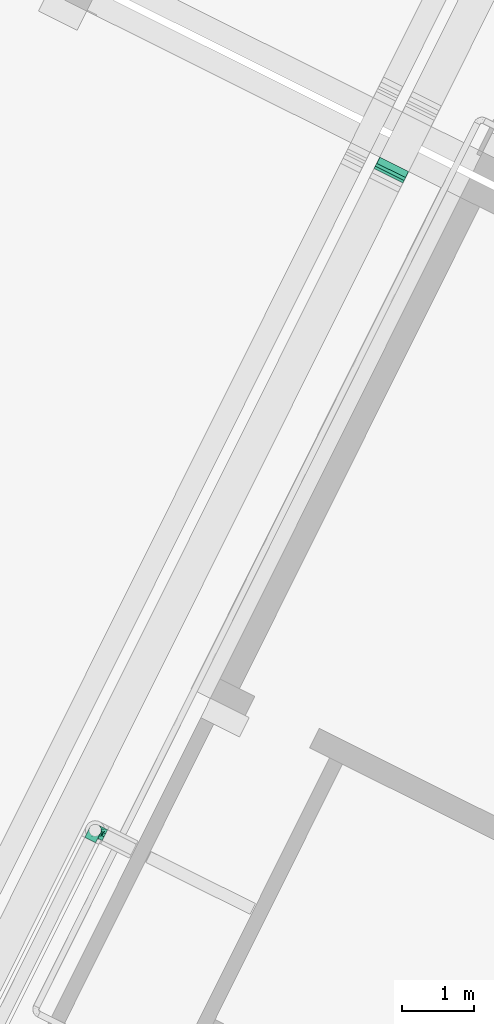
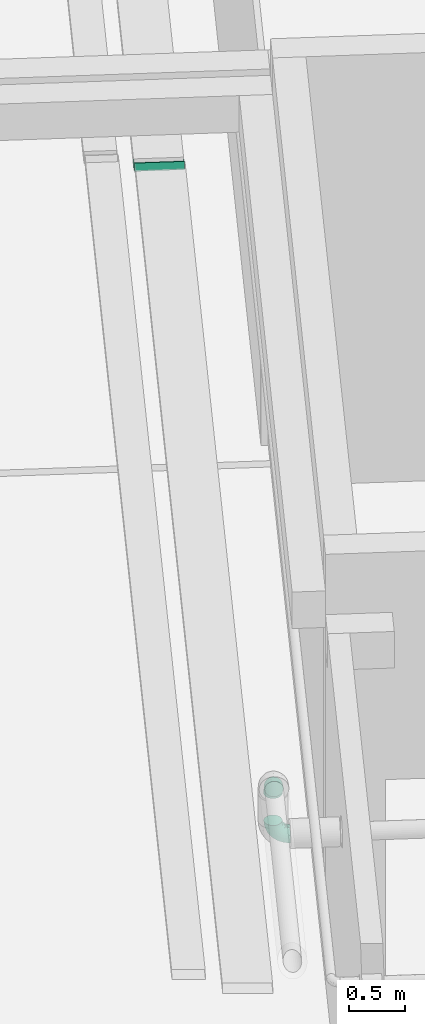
# One storey, part 79 of 91: 3 flow fittings, 1 flow segment.
"""IFC2X3 building model written with IfcOpenShell, lengths in metres."""

from ifc_helpers import new_model, entity, si_unit, converted_unit, derived_unit, direction, frame, frame_2d, origin, place, context, subcontext, project, spatial, rectangle, extrude, faceted_brep, source, transform, mapped, type_object, type_shapes, element, save


model = new_model("IFC2X3")

# Units and contexts
model_context = context("Model", 3, precision=1e-05, world=origin(), true_north=direction((0.894925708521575, 0.446215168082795)))
context_of_model = context(None, 3, precision=1e-05, world=origin(), true_north=direction((0.894925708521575, 0.446215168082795)))
body_context = subcontext(model_context, "Body", "Model", "MODEL_VIEW")
ifc_project = project(units=[si_unit("LENGTHUNIT", "METRE"), si_unit("AREAUNIT", "SQUARE_METRE"), si_unit("VOLUMEUNIT", "CUBIC_METRE"), converted_unit("PLANEANGLEUNIT", "DEGREE", entity("IfcRatioMeasure", 0.0174532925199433), si_unit("PLANEANGLEUNIT", "RADIAN"), dimensions=[0, 0, 0, 0, 0, 0, 0]), si_unit("MASSUNIT", "GRAM", prefix="KILO"), si_unit("TIMEUNIT", "SECOND"), si_unit("FREQUENCYUNIT", "HERTZ"), si_unit("THERMODYNAMICTEMPERATUREUNIT", "DEGREE_CELSIUS"), derived_unit("THERMALTRANSMITTANCEUNIT", [(si_unit("MASSUNIT", "GRAM", prefix="KILO"), 1), (si_unit("THERMODYNAMICTEMPERATUREUNIT", "KELVIN"), -1), (si_unit("TIMEUNIT", "SECOND"), -3)]), derived_unit("VOLUMETRICFLOWRATEUNIT", [(si_unit("LENGTHUNIT", "METRE"), 3), (si_unit("TIMEUNIT", "SECOND"), -1)]), si_unit("ELECTRICCURRENTUNIT", "AMPERE"), si_unit("ELECTRICVOLTAGEUNIT", "VOLT"), si_unit("POWERUNIT", "WATT"), si_unit("FORCEUNIT", "NEWTON", prefix="KILO"), si_unit("ILLUMINANCEUNIT", "LUX"), si_unit("LUMINOUSFLUXUNIT", "LUMEN"), si_unit("LUMINOUSINTENSITYUNIT", "CANDELA"), si_unit("PRESSUREUNIT", "PASCAL")], contexts=[model_context, context_of_model])

# Site, building, storey
site_placement = place(None, frame((218.228324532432, 584.720189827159, 0.0), z_axis=(0.0, 0.0, 1.0), x_axis=(0.446215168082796, 0.894925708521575, 0.0)))
site = spatial("IfcSite", under=ifc_project, at=site_placement, Name="Default", CompositionType="ELEMENT")
building_placement = place(site_placement, origin())
building = spatial("IfcBuilding", under=site, at=building_placement, CompositionType="ELEMENT")
storey_placement = place(building_placement, origin())
storey = spatial("IfcBuildingStorey", under=building, at=storey_placement, Name="0 - Piano Terra", CompositionType="ELEMENT", Elevation=0.0)

# Flow fittings
pipe_fitting_type = type_object("IfcPipeFittingType", Name="Standard", PredefinedType="NOTDEFINED")
shared_shape_1 = source(origin(), body_context, "Body", "Brep", [
    faceted_brep([(-0.151999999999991, 0.0, -0.0841500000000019), (-0.151999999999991, -0.0217796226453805, -0.081282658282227), (-0.151999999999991, -0.0420750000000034, -0.0728760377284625), (-0.151999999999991, -0.0595030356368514, -0.05950303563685), (-0.151999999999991, -0.0728760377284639, -0.0420750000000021), (-0.151999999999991, -0.0812826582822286, -0.0217796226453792), (-0.151999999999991, -0.0841500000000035, 0.0), (-0.151999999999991, -0.0812826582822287, 0.021779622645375), (-0.151999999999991, -0.0728760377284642, 0.0420749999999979), (-0.151999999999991, -0.0595030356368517, 0.0595030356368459), (-0.151999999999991, -0.0420750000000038, 0.0728760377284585), (-0.151999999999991, -0.021779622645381, 0.0812826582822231), (-0.151999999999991, 0.0, 0.0841499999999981), (-0.151999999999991, 0.0217796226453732, 0.0812826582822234), (-0.151999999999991, 0.0420749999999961, 0.0728760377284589), (-0.151999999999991, 0.0595030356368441, 0.0595030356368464), (-0.151999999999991, 0.0728760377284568, 0.0420749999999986), (-0.151999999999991, 0.0812826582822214, 0.0217796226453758), (-0.151999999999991, 0.0841499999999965, 0.0), (-0.151999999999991, 0.0812826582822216, -0.021779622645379), (-0.151999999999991, 0.072876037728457, -0.0420750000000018), (-0.151999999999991, 0.0595030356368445, -0.0595030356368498), (-0.151999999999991, 0.0420749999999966, -0.0728760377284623), (-0.151999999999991, 0.0217796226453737, -0.0812826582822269), (-0.0217796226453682, 0.151999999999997, -0.0812826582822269), (-0.0420749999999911, 0.151999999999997, -0.0728760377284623), (-0.059503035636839, 0.151999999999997, -0.0595030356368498), (-0.0728760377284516, 0.151999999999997, -0.0420750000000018), (-0.0812826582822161, 0.151999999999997, -0.021779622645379), (-0.084149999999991, 0.151999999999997, 0.0), (-0.081282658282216, 0.151999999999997, 0.0217796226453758), (-0.0728760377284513, 0.151999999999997, 0.0420749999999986), (-0.0595030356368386, 0.151999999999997, 0.0595030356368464), (-0.0420749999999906, 0.151999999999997, 0.0728760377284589), (-0.0217796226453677, 0.151999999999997, 0.0812826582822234), (0.0, 0.151999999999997, 0.0841499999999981), (0.0217796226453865, 0.151999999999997, 0.0812826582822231), (0.0420750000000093, 0.151999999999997, 0.0728760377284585), (0.0595030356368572, 0.151999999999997, 0.0595030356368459), (0.0728760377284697, 0.151999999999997, 0.0420749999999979), (0.0812826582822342, 0.151999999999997, 0.021779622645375), (0.084150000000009, 0.151999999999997, 0.0), (0.081282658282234, 0.151999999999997, -0.0217796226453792), (0.0728760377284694, 0.151999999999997, -0.0420750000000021), (0.0595030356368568, 0.151999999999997, -0.05950303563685), (0.0420750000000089, 0.151999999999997, -0.0728760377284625), (0.021779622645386, 0.151999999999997, -0.081282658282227), (0.0, 0.151999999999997, -0.0841500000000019), (-0.112295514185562, -0.0662348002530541, 0.0469763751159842), (-0.0998944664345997, -0.0498948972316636, 0.0623523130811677), (-0.0994516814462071, -0.078229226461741, 0.0), (0.0326295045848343, 0.00476288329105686, 0.0), (0.0139051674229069, -0.0139051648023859, 0.0159460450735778), (-0.00476288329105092, -0.0326295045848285, 0.0), (-0.104326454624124, -0.0750333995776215, 0.0261468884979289), (-0.113416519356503, 0.0105478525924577, 0.0839778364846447), (-0.10345101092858, 0.0347244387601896, 0.080327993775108), (-0.131471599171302, 0.0309707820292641, 0.0789057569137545), (-0.0309203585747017, -0.0471487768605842, 0.0225668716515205), (-0.0495383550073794, -0.0607637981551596, 0.0), (-0.0683222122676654, -0.0568785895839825, 0.0418314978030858), (-0.0660333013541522, -0.0644471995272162, 0.0231811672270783), (-0.0835793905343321, 0.116982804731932, 0.0378856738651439), (-0.026569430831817, 0.0183089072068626, 0.0781043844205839), (-0.0165432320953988, 0.0456685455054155, 0.0816880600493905), (-0.0428661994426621, 0.0321386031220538, 0.0835414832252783), (0.0470025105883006, 0.0693062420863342, 0.055217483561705), (0.056878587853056, 0.0683222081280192, 0.0418314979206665), (0.0662347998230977, 0.112295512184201, 0.0469763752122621), (-0.0880808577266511, 0.123149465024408, 0.0194495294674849), (-0.115041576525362, -0.0119238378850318, 0.0826074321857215), (0.049894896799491, 0.0998944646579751, 0.062352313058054), (-0.111156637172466, -0.0327211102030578, 0.0754895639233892), (-0.0752436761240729, -0.0325343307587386, 0.0692137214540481), (-0.00888418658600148, -0.0109985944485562, 0.053550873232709), (-0.00897555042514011, 0.00897554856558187, 0.0674865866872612), (-0.0444608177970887, -0.0301022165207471, 0.0595210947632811), (-0.109349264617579, 0.0934713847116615, 0.0273546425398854), (-0.128739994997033, 0.0797549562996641, 0.0359106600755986), (-0.12603492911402, 0.0893147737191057, 0.0), (0.0471487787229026, 0.0309203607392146, 0.022566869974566), (0.0371028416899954, 0.0305253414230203, 0.0422794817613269), (-0.0347244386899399, 0.103451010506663, 0.080327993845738), (-0.0262367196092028, 0.07490520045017, 0.0840302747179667), (-0.0105478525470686, 0.113416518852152, 0.0839778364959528), (-0.119941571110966, 0.0519254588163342, 0.0698578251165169), (-0.0833454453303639, 0.0610025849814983, 0.0750769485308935), (-0.0993800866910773, 0.0670387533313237, 0.0661104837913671), (-0.0522736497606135, 0.118034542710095, 0.0700368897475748), (-0.118528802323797, 0.069574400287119, 0.055744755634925), (0.0607637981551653, 0.0495383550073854, 0.0), (0.0327211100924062, 0.111156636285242, 0.075489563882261), (-0.0767637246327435, 0.0258413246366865, 0.0839946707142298), (0.0119238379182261, 0.115041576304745, 0.0826074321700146), (-0.102216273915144, 0.0876981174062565, 0.0456699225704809), (0.0782292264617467, 0.0994516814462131, 0.0), (0.0750333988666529, 0.104326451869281, 0.0261468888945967), (0.0651289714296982, 0.0654047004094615, 0.0199129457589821), (-0.0566549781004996, 0.0566549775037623, 0.0823814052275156), (-0.0309707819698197, 0.13147159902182, 0.0789057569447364), (-0.0673555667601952, 0.101601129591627, 0.0649639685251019), (-0.0687747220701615, 0.121637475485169, 0.0553217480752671), (-0.0893147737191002, 0.126034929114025, 0.0), (-0.104022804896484, 0.104022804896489, 0.0), (-0.0580913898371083, 0.0854184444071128, 0.0756364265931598), (0.00431503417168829, 0.0425180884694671, 0.0746493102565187), (0.00308445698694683, 0.0734448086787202, 0.0812650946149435), (-0.0693062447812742, -0.0470025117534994, 0.0552174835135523), (-0.085628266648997, 0.086263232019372, 0.0604079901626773), (-0.0414671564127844, 0.0784252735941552, 0.0819258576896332), (-0.0734448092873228, -0.00308445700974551, 0.0812650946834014), (-0.0305253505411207, -0.037102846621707, 0.0422794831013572), (-0.0426179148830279, -0.0109766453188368, 0.0715577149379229), (0.0222104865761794, 0.075179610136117, 0.0748796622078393), (0.0365396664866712, 0.0751083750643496, 0.0664604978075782), (0.0166895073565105, 0.014403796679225, 0.0525934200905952), (-0.0796442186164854, 0.0464469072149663, 0.0806466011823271), (0.00908607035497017, -0.00908606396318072, 0.036524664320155), (0.0301022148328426, 0.0444608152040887, 0.0595210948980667), (-0.119427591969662, 0.0520158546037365, -0.0699061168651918), (-0.110232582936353, 0.0332348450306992, -0.0799986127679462), (0.067303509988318, 0.127444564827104, -0.0486323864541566), (-0.119776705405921, 0.00991992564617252, -0.0839129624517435), (-0.109349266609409, 0.0934713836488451, -0.0273546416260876), (-0.118520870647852, 0.080425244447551, -0.0418904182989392), (-0.0824889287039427, 0.0176322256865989, -0.0841469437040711), (-0.042237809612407, 0.0404874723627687, -0.0840312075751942), (-0.0715643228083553, 0.0462238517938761, -0.0819502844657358), (-0.0269520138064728, -0.034464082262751, -0.0426985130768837), (-0.0323682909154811, -0.0463076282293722, -0.0273014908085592), (-0.0576003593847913, -0.052357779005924, -0.0416714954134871), (-0.00991992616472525, 0.119776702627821, -0.083912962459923), (-0.0332348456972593, 0.110232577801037, -0.0799986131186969), (-0.0929808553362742, 0.0517253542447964, -0.0762272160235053), (0.00399581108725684, 0.0640144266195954, -0.079667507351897), (0.00840813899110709, 0.0328778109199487, -0.0692544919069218), (-0.0236511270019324, 0.0236511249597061, -0.0788049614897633), (0.0635649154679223, 0.0943451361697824, -0.0449449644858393), (0.0647121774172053, 0.0698052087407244, -0.0267768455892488), (0.0523577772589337, 0.0576003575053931, -0.0416714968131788), (-0.132110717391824, 0.0669080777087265, -0.0539090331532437), (-0.110166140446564, -0.0759227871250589, -0.0269132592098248), (-0.127444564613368, -0.067303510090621, -0.0486323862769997), (-0.0698052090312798, -0.0647121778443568, -0.0267768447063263), (0.00867466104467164, -0.00867466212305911, -0.037708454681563), (0.0160110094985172, 0.0156079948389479, -0.0541609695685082), (0.0347671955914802, 0.027256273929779, -0.0425577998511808), (-0.109085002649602, -0.0511074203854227, -0.0631726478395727), (0.0138015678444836, -0.0138015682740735, -0.0166872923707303), (-0.0734094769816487, 0.10741660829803, -0.0572817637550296), (-0.0938460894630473, 0.0941329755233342, -0.0467626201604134), (-0.0824977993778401, 0.119740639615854, -0.0374121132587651), (0.0203075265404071, 0.0628849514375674, -0.0729261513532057), (-0.127855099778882, -0.0335932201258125, -0.0764538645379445), (-0.111254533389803, -0.0115586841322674, -0.0825049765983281), (-0.054595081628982, -0.037464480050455, -0.0579290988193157), (-0.0943451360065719, -0.0635649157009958, -0.0449449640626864), (0.0463076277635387, 0.0323682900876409, -0.0273014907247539), (-0.0879480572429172, 0.123581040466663, -0.0192162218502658), (-0.0520158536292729, 0.119427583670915, -0.0699061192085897), (-0.0668704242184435, 0.132433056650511, -0.053865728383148), (0.0759227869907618, 0.11016614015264, -0.0269132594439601), (-0.094035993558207, 0.0671599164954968, -0.0682327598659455), (-0.0852711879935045, 0.0856897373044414, -0.0610386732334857), (-0.0723785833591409, 0.0723785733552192, -0.0743572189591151), (0.0511074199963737, 0.109085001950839, -0.0631726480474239), (0.0335932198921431, 0.127855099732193, -0.0764538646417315), (0.0115586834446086, 0.111254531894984, -0.0825049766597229), (0.0304569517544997, 0.0950501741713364, -0.0744944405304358), (-0.0587965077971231, -0.0231830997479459, -0.0701791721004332), (-0.0640144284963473, -0.0039958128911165, -0.0796675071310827), (-0.0253392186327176, -0.00591217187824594, -0.0673625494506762), (-0.0950501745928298, -0.0304569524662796, -0.0744944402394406), (0.0374644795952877, 0.0545950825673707, -0.0579290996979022), (-0.0176322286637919, 0.082488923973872, -0.0841469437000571), (-0.0469951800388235, 0.0749575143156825, -0.081286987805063), (-0.0651507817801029, 0.0957840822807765, -0.0687360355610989), (-0.0548517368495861, 0.0878796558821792, -0.0762491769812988), (-0.0117403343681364, -0.0138595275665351, -0.0531816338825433), (-0.106904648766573, 0.0736247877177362, -0.0573538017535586)], [[[0, 1, 2, 3, 4, 5, 6, 7, 8, 9, 10, 11, 12, 13, 14, 15, 16, 17, 18, 19, 20, 21, 22, 23]], [[24, 25, 26, 27, 28, 29, 30, 31, 32, 33, 34, 35, 36, 37, 38, 39, 40, 41, 42, 43, 44, 45, 46, 47]], [[9, 48, 49]], [[7, 6, 50]], [[51, 52, 53]], [[54, 8, 7]], [[50, 54, 7]], [[55, 56, 57]], [[8, 48, 9]], [[58, 59, 53]], [[60, 54, 61]], [[58, 60, 61]], [[9, 49, 10]], [[62, 31, 30]], [[63, 64, 65]], [[66, 67, 68]], [[30, 69, 62]], [[11, 70, 12]], [[71, 38, 37]], [[14, 13, 57]], [[10, 49, 72]], [[49, 73, 72]], [[74, 75, 76]], [[77, 17, 78]], [[17, 79, 18]], [[79, 17, 77]], [[80, 67, 81]], [[82, 83, 84]], [[85, 86, 87]], [[33, 32, 88]], [[85, 89, 15]], [[80, 51, 90]], [[71, 37, 91]], [[56, 55, 92]], [[93, 36, 35]], [[78, 94, 77]], [[95, 40, 96]], [[95, 96, 97]], [[83, 98, 65]], [[35, 34, 84]], [[34, 99, 84]], [[96, 40, 39]], [[71, 66, 68]], [[39, 38, 68]], [[94, 62, 77]], [[67, 80, 97]], [[100, 88, 101]], [[40, 95, 41]], [[15, 14, 85]], [[68, 96, 39]], [[56, 86, 85]], [[29, 102, 69]], [[15, 89, 16]], [[77, 69, 103]], [[78, 17, 16]], [[77, 103, 79]], [[61, 50, 59]], [[101, 88, 32]], [[69, 77, 62]], [[82, 88, 104]], [[91, 37, 36]], [[10, 72, 11]], [[64, 105, 106]], [[88, 82, 99]], [[99, 34, 33]], [[49, 48, 107]], [[48, 54, 60]], [[97, 80, 90]], [[32, 31, 101]], [[13, 12, 55]], [[108, 86, 104]], [[83, 109, 98]], [[93, 84, 106]], [[70, 55, 12]], [[110, 65, 92]], [[60, 58, 111]], [[76, 112, 73]], [[91, 113, 114]], [[75, 74, 115]], [[49, 107, 73]], [[70, 72, 110]], [[93, 91, 36]], [[106, 105, 113]], [[57, 85, 14]], [[116, 98, 86]], [[31, 62, 101]], [[108, 101, 62]], [[54, 48, 8]], [[48, 60, 107]], [[71, 68, 38]], [[96, 68, 67]], [[109, 104, 98]], [[89, 87, 108]], [[84, 93, 35]], [[93, 106, 113]], [[72, 70, 11]], [[55, 70, 110]], [[98, 116, 92]], [[106, 84, 83]], [[110, 112, 63]], [[83, 65, 64]], [[52, 58, 53]], [[111, 76, 107]], [[67, 66, 81]], [[52, 80, 117]], [[110, 92, 55]], [[98, 92, 65]], [[104, 88, 100]], [[98, 104, 86]], [[112, 76, 75]], [[110, 72, 73]], [[63, 112, 75]], [[110, 73, 112]], [[63, 75, 105]], [[110, 63, 65]], [[75, 118, 105]], [[113, 91, 93]], [[105, 118, 113]], [[118, 66, 114]], [[16, 89, 78]], [[94, 89, 108]], [[89, 94, 78]], [[62, 94, 108]], [[105, 64, 63]], [[83, 64, 106]], [[58, 117, 111]], [[74, 111, 117]], [[115, 81, 118]], [[117, 80, 81]], [[80, 52, 51]], [[58, 52, 117]], [[88, 99, 33]], [[84, 99, 82]], [[55, 57, 13]], [[85, 57, 56]], [[29, 69, 30]], [[69, 102, 103]], [[111, 107, 60]], [[73, 107, 76]], [[111, 74, 76]], [[117, 81, 115]], [[75, 115, 118]], [[117, 115, 74]], [[114, 66, 71]], [[81, 66, 118]], [[91, 114, 71]], [[118, 114, 113]], [[101, 108, 100]], [[104, 100, 108]], [[86, 56, 116]], [[92, 116, 56]], [[85, 87, 89]], [[86, 108, 87]], [[83, 82, 109]], [[104, 109, 82]], [[50, 61, 54]], [[59, 58, 61]], [[95, 97, 90]], [[67, 97, 96]], [[22, 119, 120]], [[121, 44, 43]], [[0, 23, 122]], [[19, 123, 124]], [[122, 120, 125]], [[126, 125, 127]], [[18, 79, 19]], [[128, 129, 130]], [[19, 79, 123]], [[24, 131, 132]], [[119, 133, 120]], [[134, 135, 136]], [[137, 138, 139]], [[20, 140, 21]], [[141, 4, 142]], [[143, 50, 141]], [[50, 6, 5]], [[144, 145, 146]], [[147, 3, 2]], [[129, 143, 130]], [[129, 144, 148]], [[149, 150, 151]], [[135, 134, 152]], [[141, 5, 4]], [[2, 153, 147]], [[154, 1, 0]], [[155, 156, 147]], [[2, 1, 153]], [[157, 90, 51]], [[123, 150, 124]], [[103, 123, 79]], [[156, 143, 141]], [[151, 158, 28]], [[25, 132, 159]], [[28, 158, 29]], [[27, 160, 151]], [[43, 42, 161]], [[27, 26, 160]], [[162, 163, 164]], [[45, 44, 165]], [[166, 167, 46]], [[165, 168, 166]], [[169, 170, 171]], [[131, 24, 47]], [[51, 148, 157]], [[26, 25, 159]], [[125, 120, 127]], [[46, 45, 166]], [[157, 139, 138]], [[53, 59, 129]], [[24, 132, 25]], [[3, 142, 4]], [[148, 51, 53]], [[154, 172, 153]], [[168, 165, 173]], [[28, 27, 151]], [[41, 95, 42]], [[172, 154, 170]], [[120, 133, 127]], [[161, 137, 121]], [[46, 167, 47]], [[167, 134, 174]], [[135, 171, 136]], [[120, 23, 22]], [[164, 175, 127]], [[102, 158, 103]], [[159, 176, 149]], [[22, 21, 119]], [[138, 137, 161]], [[149, 163, 150]], [[158, 102, 29]], [[121, 165, 44]], [[173, 165, 137]], [[134, 167, 168]], [[131, 167, 174]], [[152, 173, 135]], [[134, 136, 126]], [[42, 95, 161]], [[138, 95, 90]], [[155, 147, 172]], [[142, 147, 156]], [[122, 154, 0]], [[125, 126, 170]], [[125, 170, 154]], [[170, 136, 171]], [[130, 143, 156]], [[50, 5, 141]], [[140, 119, 21]], [[133, 162, 164]], [[175, 164, 177]], [[160, 159, 149]], [[173, 145, 135]], [[145, 178, 171]], [[171, 135, 145]], [[171, 155, 169]], [[120, 122, 23]], [[154, 122, 125]], [[167, 131, 47]], [[132, 131, 174]], [[95, 138, 161]], [[90, 157, 138]], [[129, 59, 143]], [[50, 143, 59]], [[177, 164, 176]], [[126, 136, 170]], [[175, 126, 127]], [[134, 126, 174]], [[132, 174, 175]], [[126, 175, 174]], [[173, 139, 146]], [[145, 144, 178]], [[128, 144, 129]], [[155, 171, 178]], [[146, 139, 157]], [[173, 137, 139]], [[144, 146, 157]], [[173, 146, 145]], [[156, 155, 130]], [[128, 155, 178]], [[155, 128, 130]], [[144, 128, 178]], [[124, 150, 179]], [[123, 151, 150]], [[140, 124, 179]], [[19, 124, 20]], [[151, 123, 158]], [[103, 158, 123]], [[162, 119, 179]], [[127, 133, 164]], [[119, 162, 133]], [[163, 162, 179]], [[150, 163, 179]], [[163, 149, 176]], [[129, 148, 53]], [[157, 148, 144]], [[124, 140, 20]], [[119, 140, 179]], [[159, 160, 26]], [[151, 160, 149]], [[165, 166, 45]], [[167, 166, 168]], [[161, 121, 43]], [[165, 121, 137]], [[154, 153, 1]], [[147, 153, 172]], [[147, 142, 3]], [[141, 142, 156]], [[159, 132, 177]], [[163, 176, 164]], [[159, 177, 176]], [[132, 175, 177]], [[134, 168, 152]], [[173, 152, 168]], [[155, 172, 169]], [[170, 169, 172]]]),
])
type_shapes(pipe_fitting_type, [shared_shape_1])
for number, where, z_axis, x_axis, name in (
    (1, (0.657301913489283, -4.38521649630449, 3.30000000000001), (1.0, 0.0, 0.0), (0.0, 1.0, 0.0), "M_Gomito - Saldato - Generico:Standard"),
    (2, (0.657301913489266, -4.38521649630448, 3.89999999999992), (0.0, 1.0, 0.0), (1.0, 0.0, 0.0), "M_Gomito - Saldato - Generico:Standard"),
):
    element("IfcFlowFitting", number, at=place(storey_placement, frame(where, z_axis=z_axis, x_axis=x_axis)), inside=storey, type_object=pipe_fitting_type, Name=name, ObjectType="Standard", context=body_context, shape_type="MappedRepresentation", body=[
        mapped(shared_shape_1, transform((0.0, 0.0, 0.0), scale=1.0)),
    ])

# Flow segment
cable_carrier_segment_type = type_object("IfcCableCarrierSegmentType", Name="Passerella con raccordi:Passerella canale", PredefinedType="NOTDEFINED")
flow_segment_placement = place(storey_placement, frame((10.616168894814, -4.20107899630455, 3.59822448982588)))
element("IfcFlowSegment", 3, at=flow_segment_placement, inside=storey, type_object=cable_carrier_segment_type, Name="Passerella con raccordi:Passerella canale", ObjectType="Passerella con raccordi:Passerella canale", context=body_context, shape_type="SweptSolid", body=[
    extrude(rectangle(XDim=0.0750000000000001, YDim=0.0527002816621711, at=frame_2d((0.0, 0.0), x_axis=(0.0, 1.0))), frame((0.0415698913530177, 0.0, 0.0456510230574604), z_axis=(0.0, 1.0, 0.0), x_axis=(-0.866025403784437, 0.0, 0.500000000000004)), (0.0, 0.0, 1.0), 0.449999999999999),
])

# Flow fitting
cable_carrier_fitting_type = type_object("IfcCableCarrierFittingType", Name="Standard", PredefinedType="NOTDEFINED")
shared_shape_2 = source(origin(), body_context, "Body", "Brep", [
    faceted_brep([(-0.0608988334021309, -0.0374999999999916, -0.225000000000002), (-0.0608988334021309, -0.0374999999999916, -0.222460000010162), (-0.0608988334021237, 0.0349600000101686, -0.222460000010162), (-0.0608988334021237, 0.0349600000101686, 0.222460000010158), (-0.0608988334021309, -0.0374999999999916, 0.222460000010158), (-0.0608988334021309, -0.0374999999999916, 0.224999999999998), (-0.0608988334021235, 0.0375000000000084, 0.224999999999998), (-0.0608988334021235, 0.0375000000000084, -0.225000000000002), (0.0702199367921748, -0.000173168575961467, -0.222460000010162), (0.0339899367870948, -0.0629253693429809, -0.222460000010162), (0.0339899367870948, -0.0629253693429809, -0.225000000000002), (0.0714899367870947, 0.00202653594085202, -0.225000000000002), (0.0714899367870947, 0.00202653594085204, 0.224999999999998), (0.0339899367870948, -0.0629253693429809, 0.224999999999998), (0.0339899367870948, -0.0629253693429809, 0.222460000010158), (0.0702199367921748, -0.00017316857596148, 0.222460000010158), (-0.0108988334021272, -0.0374999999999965, 0.224999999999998), (-0.0100770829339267, -0.0376081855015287, 0.224999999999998), (-0.00931133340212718, -0.0379253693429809, 0.224999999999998), (0.0281886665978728, 0.027026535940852, 0.224999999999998), (0.00933434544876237, 0.0348362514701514, 0.224999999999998), (-0.0108988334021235, 0.0375000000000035, 0.224999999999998), (-0.0108988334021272, 0.0375000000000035, 0.0706376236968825), (-0.0108988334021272, 0.0375000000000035, -0.0837247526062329), (-0.0108988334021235, 0.0375000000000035, -0.225000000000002), (0.00933434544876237, 0.0348362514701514, -0.225000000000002), (0.0281886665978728, 0.027026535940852, -0.225000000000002), (-0.00931133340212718, -0.0379253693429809, -0.225000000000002), (-0.0100770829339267, -0.0376081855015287, -0.225000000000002), (-0.0108988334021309, -0.0374999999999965, -0.225000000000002), (-0.0108988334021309, -0.0374999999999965, -0.222460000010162), (-0.0108988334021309, -0.0374999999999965, 0.222460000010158), (-0.0100770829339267, -0.0376081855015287, -0.222460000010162), (-0.00931133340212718, -0.0379253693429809, -0.222460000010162), (0.0269186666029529, 0.0248268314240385, -0.222460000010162), (0.00867694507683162, 0.0323827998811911, -0.222460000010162), (-0.0108988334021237, 0.0349600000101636, -0.222460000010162), (-0.0108988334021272, 0.0349600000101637, -0.0812079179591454), (-0.0108988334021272, 0.0349600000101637, 0.0706260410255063), (-0.0108988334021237, 0.0349600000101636, 0.222460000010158), (0.00867694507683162, 0.0323827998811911, 0.222460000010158), (0.0269186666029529, 0.0248268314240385, 0.222460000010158), (-0.00931133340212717, -0.0379253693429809, 0.222460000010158), (-0.0100770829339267, -0.0376081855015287, 0.222460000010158), (0.0281886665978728, 0.027026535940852, -0.0837247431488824), (0.0281886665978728, 0.027026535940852, 0.0706376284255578), (0.00933434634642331, 0.0348362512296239, -0.00654356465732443), (0.0269186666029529, 0.0248268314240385, -0.0812079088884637), (0.0269186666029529, 0.0248268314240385, 0.0706260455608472), (0.00867694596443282, 0.0323827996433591, -0.00529093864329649)], [[[0, 1, 2, 3, 4, 5, 6, 7]], [[8, 9, 10, 11, 12, 13, 14, 15]], [[5, 16, 17, 18, 13, 12, 19, 20, 21, 6]], [[21, 22, 23, 24, 7, 6]], [[7, 24, 25, 26, 11, 10, 27, 28, 29, 0]], [[30, 1, 0, 29]], [[16, 5, 4, 31]], [[1, 30, 32, 33, 9, 8, 34, 35, 36, 2]], [[36, 37, 38, 39, 3, 2]], [[3, 39, 40, 41, 15, 14, 42, 43, 31, 4]], [[26, 25, 44]], [[45, 20, 19]], [[45, 44, 46]], [[22, 21, 20]], [[24, 23, 25]], [[23, 46, 25]], [[20, 46, 22]], [[44, 25, 46]], [[46, 20, 45]], [[22, 46, 23]], [[29, 28, 32, 30]], [[16, 31, 43, 17]], [[32, 28, 27, 33]], [[43, 42, 18, 17]], [[47, 35, 34]], [[41, 40, 48]], [[49, 47, 48]], [[40, 39, 38]], [[35, 37, 36]], [[35, 49, 37]], [[38, 49, 40]], [[49, 35, 47]], [[48, 40, 49]], [[37, 49, 38]], [[11, 26, 44, 45, 19, 12]], [[10, 9, 33, 27]], [[13, 18, 42, 14]], [[15, 41, 48, 47, 34, 8]]]),
])
type_shapes(cable_carrier_fitting_type, [shared_shape_2])
flow_fitting_placement = place(storey_placement, frame((10.7332986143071, -3.97607899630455, 3.60025102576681), z_axis=(0.0, -1.0, 0.0), x_axis=(-1.0, 0.0, 0.0)))
element("IfcFlowFitting", 4, at=flow_fitting_placement, inside=storey, type_object=cable_carrier_fitting_type, Name="M_Curvatura interna verticale canale:Standard", ObjectType="Standard", context=body_context, shape_type="MappedRepresentation", body=[
    mapped(shared_shape_2, transform((0.0, 0.0, 0.0), scale=1.0)),
])

save(model, "model.ifc")
